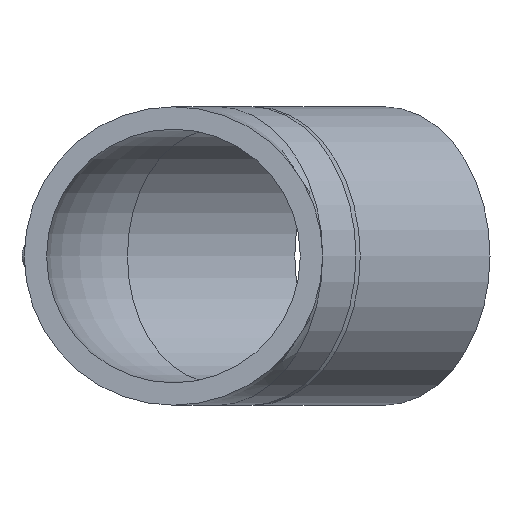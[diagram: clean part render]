
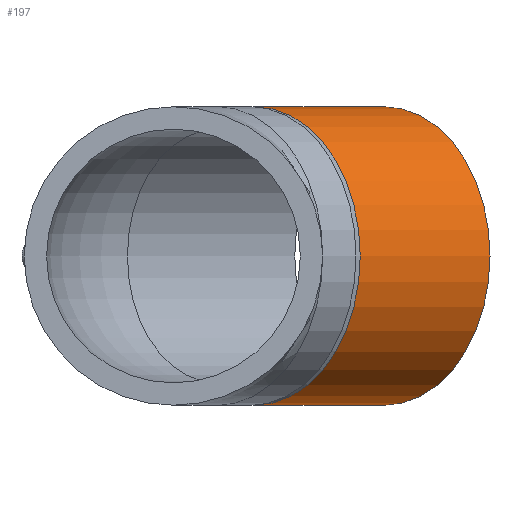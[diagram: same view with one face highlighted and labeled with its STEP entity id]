
A CAD part, front view. The second image highlights one B-rep face of the part: STEP entity #197.
In plain terms, the highlighted cylindrical face has radius 20 mm (diameter 40 mm), a full revolution.
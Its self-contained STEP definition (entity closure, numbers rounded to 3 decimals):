
#18=CYLINDRICAL_SURFACE($,#228,20.);
#34=FACE_BOUND($,#77,.T.);
#52=FACE_OUTER_BOUND($,#76,.T.);
#76=EDGE_LOOP($,(#154));
#77=EDGE_LOOP($,(#155));
#88=CIRCLE($,#210,20.);
#99=CIRCLE($,#229,20.);
#104=VERTEX_POINT($,#348);
#114=VERTEX_POINT($,#458);
#119=EDGE_CURVE($,#104,#104,#88,.T.);
#130=EDGE_CURVE($,#114,#114,#99,.T.);
#154=ORIENTED_EDGE($,*,*,#119,.T.);
#155=ORIENTED_EDGE($,*,*,#130,.T.);
#197=ADVANCED_FACE($,(#52,#34),#18,.T.);
#210=AXIS2_PLACEMENT_3D($,#349,#247,#248);
#228=AXIS2_PLACEMENT_3D($,#457,#283,#284);
#229=AXIS2_PLACEMENT_3D($,#459,#285,#286);
#247=DIRECTION('center_axis',(0.707,0.707,0.));
#248=DIRECTION('ref_axis',(0.707,-0.707,0.));
#283=DIRECTION('center_axis',(0.707,0.707,0.));
#284=DIRECTION('ref_axis',(0.707,-0.707,0.));
#285=DIRECTION('center_axis',(-0.707,-0.707,0.));
#286=DIRECTION('ref_axis',(0.707,-0.707,0.));
#348=CARTESIAN_POINT('',(25.032,36.747,0.));
#349=CARTESIAN_POINT('Origin',(10.889,50.889,0.));
#457=CARTESIAN_POINT('Origin',(5.858,45.858,0.));
#458=CARTESIAN_POINT('',(42.426,54.142,0.));
#459=CARTESIAN_POINT('Origin',(28.284,68.284,0.));
